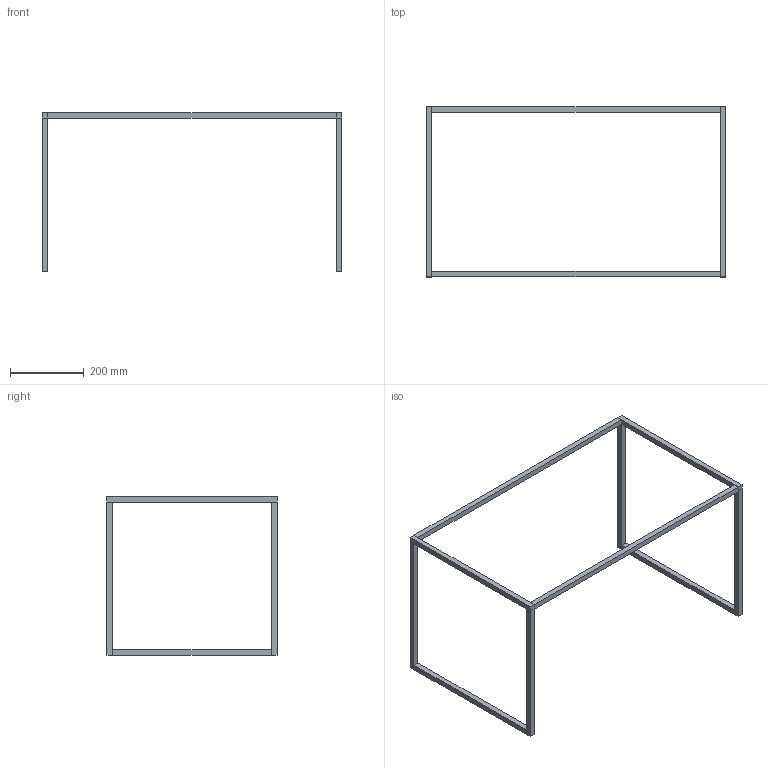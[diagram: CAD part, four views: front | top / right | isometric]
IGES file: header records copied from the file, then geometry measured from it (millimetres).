
Start section: START RECORD GO HERE.
Global section: file name: 2079_3D.igs; native system: DASSAULT SYSTEMES CATIA V5 R19 - www.3ds.com; preprocessor: CATIA Version 5 Release 19 SP 5 ; author: gioge; organization: LAPTOP-G94B6G74; date: 20201024.090614; units: millimetre
Bounding box: 810 x 460 x 430 mm (x, y, z)
Surface area: 304500 mm2 (no closed solid volume)
Topology: 0 solids, 0 shells, 60 faces, 240 edges, 240 vertices
Faces by surface type: plane 60
